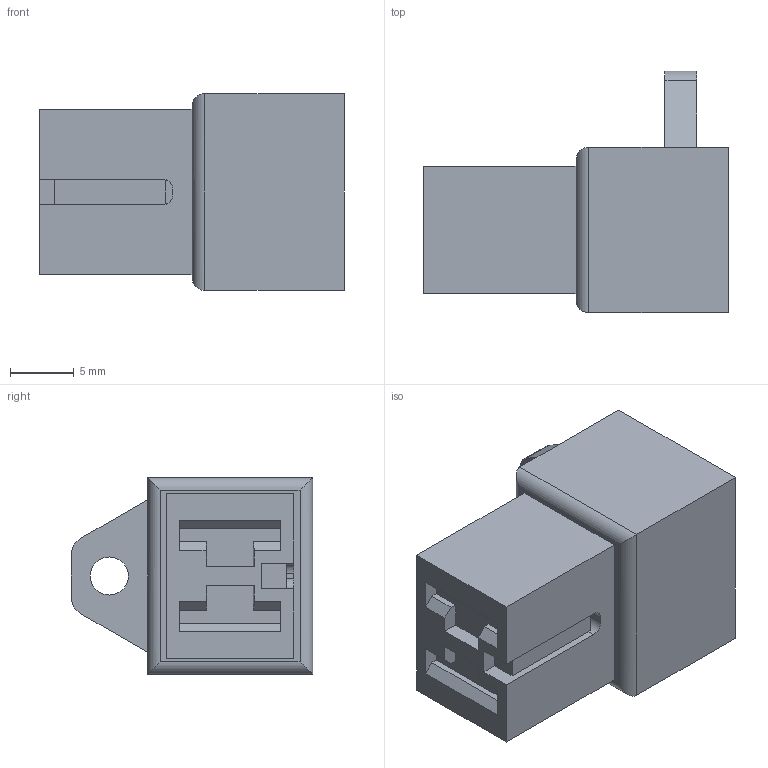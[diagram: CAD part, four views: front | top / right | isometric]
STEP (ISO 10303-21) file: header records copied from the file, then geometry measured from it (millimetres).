
FILE_DESCRIPTION (( 'STEP AP203' ), '1' );
FILE_NAME ('411-BML-02.STEP', '2019-01-28T01:40:18', ( '' ), ( '' ), 'SwSTEP 2.0', 'SolidWorks 2016', '' );
FILE_SCHEMA (( 'CONFIG_CONTROL_DESIGN' ));
Length unit declared in the file: millimetre
Products named in the file (1): 411-BML-02
Bounding box: 24 x 19 x 15.5 mm (x, y, z)
Volume: 2233.8 mm3; surface area: 2892.7 mm2
Topology: 1 solids, 1 shells, 96 faces, 252 edges, 164 vertices
Faces by surface type: plane 86, cylinder 10
Entity records: 2975 total; most frequent: CARTESIAN_POINT 525, ORIENTED_EDGE 504, DIRECTION 456, EDGE_CURVE 252, LINE 234, VECTOR 234, VERTEX_POINT 164, AXIS2_PLACEMENT_3D 111
